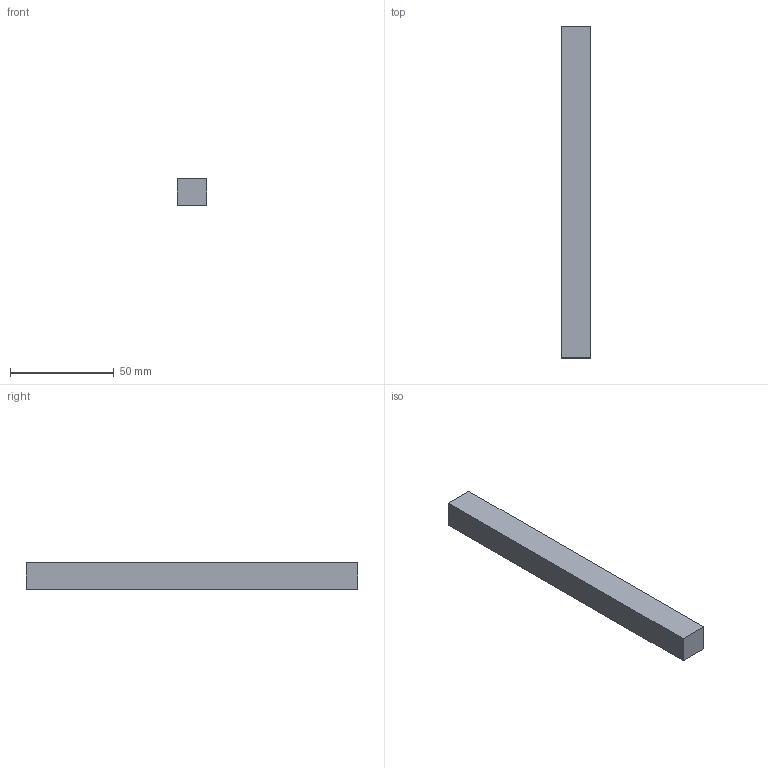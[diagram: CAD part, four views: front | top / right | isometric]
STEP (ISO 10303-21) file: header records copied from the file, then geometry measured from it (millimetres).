
FILE_DESCRIPTION(('Open CASCADE Model'),'2;1');
FILE_NAME('Open CASCADE Shape Model','2026-10-04T01:02:28',('Author'),( 'Open CASCADE'),'Open CASCADE STEP processor 8.0','Open CASCADE 8.0' ,'Unknown');
FILE_SCHEMA(('AUTOMOTIVE_DESIGN { 1 0 10303 214 1 1 1 1 }'));
Length unit declared in the file: millimetre
Products named in the file (1): Open CASCADE STEP translator 8.0 128
Bounding box: 14 x 160 x 13 mm (x, y, z)
Volume: 29120 mm3; surface area: 9004 mm2
Topology: 1 solids, 1 shells, 6 faces, 12 edges, 8 vertices
Faces by surface type: plane 6
Entity records: 322 total; most frequent: CARTESIAN_POINT 51, DIRECTION 50, LINE 36, VECTOR 36, ORIENTED_EDGE 24, PCURVE 24, DEFINITIONAL_REPRESENTATION 24, EDGE_CURVE 12
